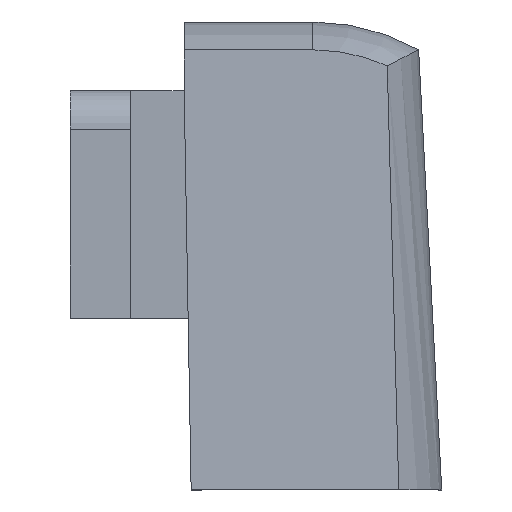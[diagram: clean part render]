
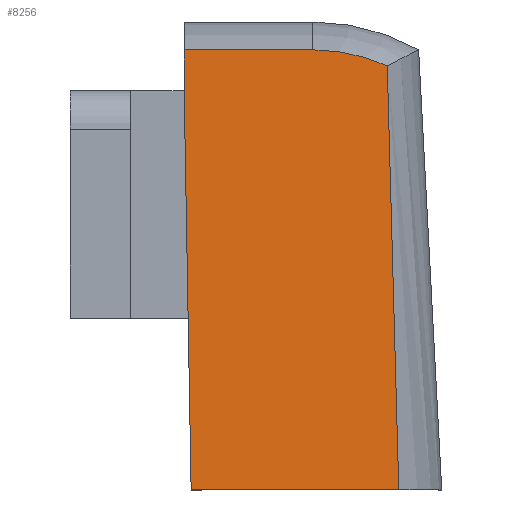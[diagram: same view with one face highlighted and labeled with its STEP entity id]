
A CAD part, left-side view. The second image highlights one B-rep face of the part: STEP entity #8256.
In plain terms, the highlighted planar face has unit normal (-0.999, 0, 0.052).
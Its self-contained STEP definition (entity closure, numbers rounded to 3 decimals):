
#5246=CARTESIAN_POINT(' ',(-19.482,-4.732,9.98));
#5247=VERTEX_POINT(' ',#5246);
#5261=CARTESIAN_POINT(' ',(-19.482,-4.732,9.98));
#5266=DIRECTION(' ',(-0.052,-0.027,-0.998));
#5271=VECTOR(' ',#5266,1.);
#5276=LINE('',#5261,#5271);
#5281=CARTESIAN_POINT(' ',(-20.,-5.,0.1));
#5282=VERTEX_POINT(' ',#5281);
#5286=EDGE_CURVE(' ',#5247,#5282,#5276,.T.);
#5601=CARTESIAN_POINT(' ',(-20.,-5.,0.1));
#5606=DIRECTION(' ',(0.,1.,0.));
#5611=VECTOR(' ',#5606,1.);
#5616=LINE('',#5601,#5611);
#5621=CARTESIAN_POINT(' ',(-20.,-0.164,0.1));
#5622=VERTEX_POINT(' ',#5621);
#5626=EDGE_CURVE(' ',#5282,#5622,#5616,.T.);
#8036=CARTESIAN_POINT(' ',(-19.463,-3.,10.351));
#8037=VERTEX_POINT(' ',#8036);
#8051=CARTESIAN_POINT(' ',(-19.691,-2.997,6.131));
#8056=DIRECTION(' ',(-0.999,0.,0.054));
#8061=DIRECTION(' ',(0.049,-0.41,0.911));
#8066=AXIS2_PLACEMENT_3D(' ',#8051,#8056,#8061);
#8071=CIRCLE('',#8066,4.227);
#8076=EDGE_CURVE(' ',#5247,#8037,#8071,.T.);
#8106=DIRECTION(' ',(-0.999,0.,0.052));
#8111=CARTESIAN_POINT(' ',(-20.,0.,0.1));
#8116=DIRECTION(' ',(-0.,-1.,0.));
#8121=AXIS2_PLACEMENT_3D(' ',#8111,#8106,#8116);
#8126=PLANE('',#8121);
#8131=ORIENTED_EDGE(' ',*,*,#5286,.F.);
#8136=ORIENTED_EDGE(' ',*,*,#8076,.T.);
#8141=CARTESIAN_POINT(' ',(-19.463,-3.,10.351));
#8146=DIRECTION(' ',(0.,1.,0.));
#8151=VECTOR(' ',#8146,1.);
#8156=LINE('',#8141,#8151);
#8161=CARTESIAN_POINT(' ',(-19.463,0.,10.351));
#8162=VERTEX_POINT(' ',#8161);
#8166=EDGE_CURVE(' ',#8037,#8162,#8156,.T.);
#8171=ORIENTED_EDGE(' ',*,*,#8166,.T.);
#8176=CARTESIAN_POINT(' ',(-19.463,0.,10.351));
#8181=DIRECTION(' ',(-0.052,0.,-0.999));
#8186=VECTOR(' ',#8181,1.);
#8191=LINE('',#8176,#8186);
#8196=CARTESIAN_POINT(' ',(-19.507,0.,9.5));
#8197=VERTEX_POINT(' ',#8196);
#8201=EDGE_CURVE(' ',#8162,#8197,#8191,.T.);
#8206=ORIENTED_EDGE(' ',*,*,#8201,.T.);
#8211=CARTESIAN_POINT(' ',(-19.507,0.,9.5));
#8216=DIRECTION(' ',(-0.052,-0.017,-0.998));
#8221=VECTOR(' ',#8216,1.);
#8226=LINE('',#8211,#8221);
#8231=EDGE_CURVE(' ',#8197,#5622,#8226,.T.);
#8236=ORIENTED_EDGE(' ',*,*,#8231,.T.);
#8241=ORIENTED_EDGE(' ',*,*,#5626,.F.);
#8246=EDGE_LOOP(' ',(#8131,#8136,#8171,#8206,#8236,#8241));
#8251=FACE_OUTER_BOUND(' ',#8246,.T.);
#8256=ADVANCED_FACE('',(#8251),#8126,.T.);
